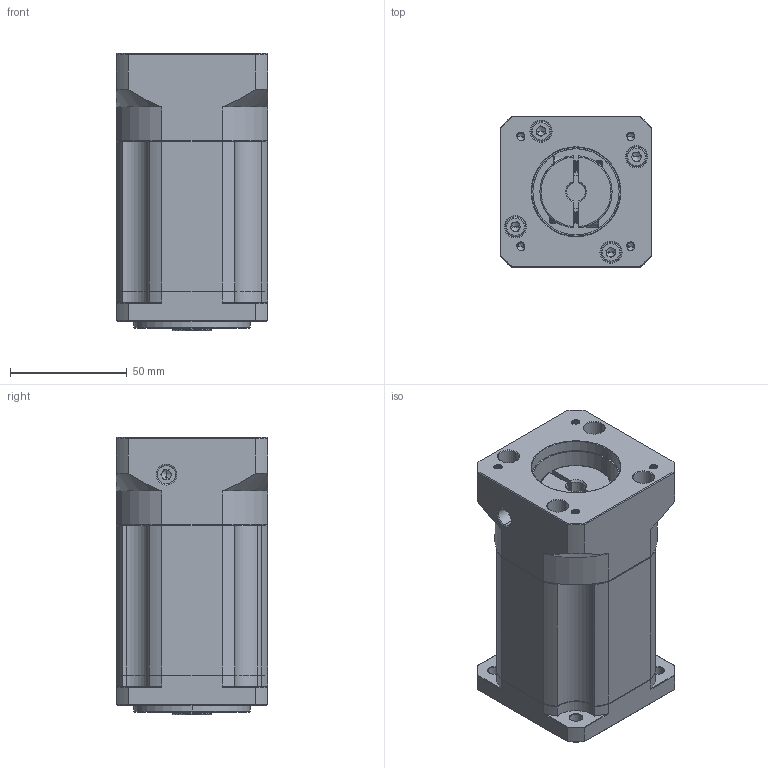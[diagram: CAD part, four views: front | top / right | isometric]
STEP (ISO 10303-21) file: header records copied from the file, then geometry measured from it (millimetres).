
FILE_DESCRIPTION (( 'STEP AP214' ), '1' );
FILE_NAME ('ZB60-K10-L3-8-38.1-47.14X47.14-M4.STEP', '2022-04-16T15:43:51', ( '' ), ( 'Microsoft' ), 'SwSTEP 2.0', 'SolidWorks 2016', '' );
FILE_SCHEMA (( 'AUTOMOTIVE_DESIGN' ));
Length unit declared in the file: millimetre
Products named in the file (1): ZB60-K10-L3-8-38.1-47.14X47.14-M4
Bounding box: 65 x 65 x 119 mm (x, y, z)
Volume: 387984.9 mm3; surface area: 61286.2 mm2
Topology: 6 solids, 6 shells, 1823 faces, 4835 edges, 3098 vertices
Faces by surface type: plane 876, cylinder 342, bspline 292, cone 279, torus 34
Entity records: 93041 total; most frequent: CARTESIAN_POINT 29831, ORIENTED_EDGE 9614, DIRECTION 7965, EDGE_CURVE 4807, VERTEX_POINT 3098, VECTOR 2961, LINE 2961, AXIS2_PLACEMENT_3D 2502
